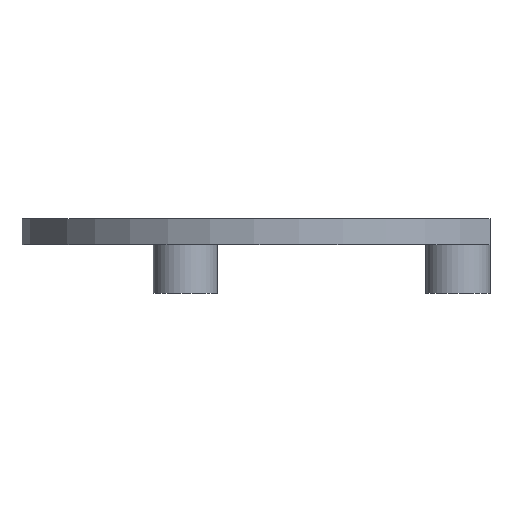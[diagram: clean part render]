
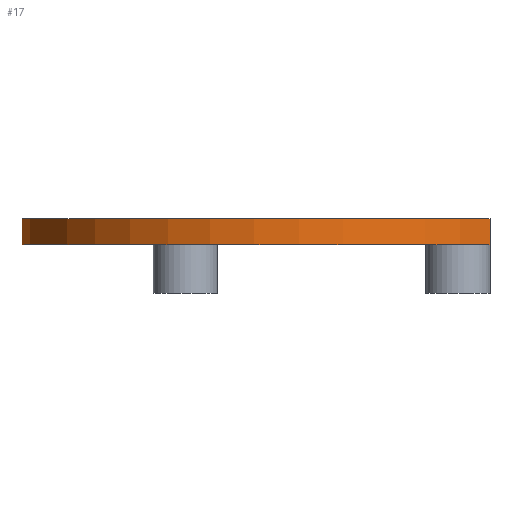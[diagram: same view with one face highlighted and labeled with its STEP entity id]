
A CAD part, left-side view. The second image highlights one B-rep face of the part: STEP entity #17.
In plain terms, the highlighted cylindrical face has radius 65 mm (diameter 130 mm), a partial arc.
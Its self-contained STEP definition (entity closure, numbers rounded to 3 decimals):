
#17 = ADVANCED_FACE('',(#18),#33,.T.);
#18 = FACE_BOUND('',#19,.F.);
#19 = EDGE_LOOP('',(#20,#56,#82,#115));
#20 = ORIENTED_EDGE('',*,*,#21,.F.);
#21 = EDGE_CURVE('',#22,#24,#26,.T.);
#22 = VERTEX_POINT('',#23);
#23 = CARTESIAN_POINT('',(39.,-52.,0.));
#24 = VERTEX_POINT('',#25);
#25 = CARTESIAN_POINT('',(-39.,-52.,0.));
#26 = SURFACE_CURVE('',#27,(#32,#44),.PCURVE_S1.);
#27 = CIRCLE('',#28,65.);
#28 = AXIS2_PLACEMENT_3D('',#29,#30,#31);
#29 = CARTESIAN_POINT('',(0.,0.,0.));
#30 = DIRECTION('',(0.,0.,1.));
#31 = DIRECTION('',(0.6,-0.8,0.));
#32 = PCURVE('',#33,#38);
#33 = CYLINDRICAL_SURFACE('',#34,65.);
#34 = AXIS2_PLACEMENT_3D('',#35,#36,#37);
#35 = CARTESIAN_POINT('',(0.,0.,0.));
#36 = DIRECTION('',(-0.,-0.,-1.));
#37 = DIRECTION('',(1.,0.,0.));
#38 = DEFINITIONAL_REPRESENTATION('',(#39),#43);
#39 = LINE('',#40,#41);
#40 = CARTESIAN_POINT('',(-5.356,0.));
#41 = VECTOR('',#42,1.);
#42 = DIRECTION('',(-1.,0.));
#43 = ( GEOMETRIC_REPRESENTATION_CONTEXT(2) 
PARAMETRIC_REPRESENTATION_CONTEXT() REPRESENTATION_CONTEXT('2D SPACE',''
  ) );
#44 = PCURVE('',#45,#50);
#45 = PLANE('',#46);
#46 = AXIS2_PLACEMENT_3D('',#47,#48,#49);
#47 = CARTESIAN_POINT('',(0.,0.,0.));
#48 = DIRECTION('',(0.,0.,1.));
#49 = DIRECTION('',(1.,0.,-0.));
#50 = DEFINITIONAL_REPRESENTATION('',(#51),#55);
#51 = CIRCLE('',#52,65.);
#52 = AXIS2_PLACEMENT_2D('',#53,#54);
#53 = CARTESIAN_POINT('',(0.,0.));
#54 = DIRECTION('',(0.6,-0.8));
#55 = ( GEOMETRIC_REPRESENTATION_CONTEXT(2) 
PARAMETRIC_REPRESENTATION_CONTEXT() REPRESENTATION_CONTEXT('2D SPACE',''
  ) );
#56 = ORIENTED_EDGE('',*,*,#57,.F.);
#57 = EDGE_CURVE('',#58,#22,#60,.T.);
#58 = VERTEX_POINT('',#59);
#59 = CARTESIAN_POINT('',(39.,-52.,6.5));
#60 = SURFACE_CURVE('',#61,(#65,#71),.PCURVE_S1.);
#61 = LINE('',#62,#63);
#62 = CARTESIAN_POINT('',(39.,-52.,0.));
#63 = VECTOR('',#64,1.);
#64 = DIRECTION('',(-0.,-0.,-1.));
#65 = PCURVE('',#33,#66);
#66 = DEFINITIONAL_REPRESENTATION('',(#67),#70);
#67 = B_SPLINE_CURVE_WITH_KNOTS('',1,(#68,#69),.UNSPECIFIED.,.F.,.F.,(2,
    2),(-6.5,0.),.PIECEWISE_BEZIER_KNOTS.);
#68 = CARTESIAN_POINT('',(-5.356,-6.5));
#69 = CARTESIAN_POINT('',(-5.356,0.));
#70 = ( GEOMETRIC_REPRESENTATION_CONTEXT(2) 
PARAMETRIC_REPRESENTATION_CONTEXT() REPRESENTATION_CONTEXT('2D SPACE',''
  ) );
#71 = PCURVE('',#72,#77);
#72 = PLANE('',#73);
#73 = AXIS2_PLACEMENT_3D('',#74,#75,#76);
#74 = CARTESIAN_POINT('',(-200.,-52.,-280.));
#75 = DIRECTION('',(0.,1.,0.));
#76 = DIRECTION('',(0.,0.,1.));
#77 = DEFINITIONAL_REPRESENTATION('',(#78),#81);
#78 = B_SPLINE_CURVE_WITH_KNOTS('',1,(#79,#80),.UNSPECIFIED.,.F.,.F.,(2,
    2),(-6.5,0.),.PIECEWISE_BEZIER_KNOTS.);
#79 = CARTESIAN_POINT('',(286.5,239.));
#80 = CARTESIAN_POINT('',(280.,239.));
#81 = ( GEOMETRIC_REPRESENTATION_CONTEXT(2) 
PARAMETRIC_REPRESENTATION_CONTEXT() REPRESENTATION_CONTEXT('2D SPACE',''
  ) );
#82 = ORIENTED_EDGE('',*,*,#83,.F.);
#83 = EDGE_CURVE('',#84,#58,#86,.T.);
#84 = VERTEX_POINT('',#85);
#85 = CARTESIAN_POINT('',(-39.,-52.,6.5));
#86 = SURFACE_CURVE('',#87,(#92,#99),.PCURVE_S1.);
#87 = CIRCLE('',#88,65.);
#88 = AXIS2_PLACEMENT_3D('',#89,#90,#91);
#89 = CARTESIAN_POINT('',(0.,0.,6.5));
#90 = DIRECTION('',(-0.,0.,-1.));
#91 = DIRECTION('',(-0.6,-0.8,0.));
#92 = PCURVE('',#33,#93);
#93 = DEFINITIONAL_REPRESENTATION('',(#94),#98);
#94 = LINE('',#95,#96);
#95 = CARTESIAN_POINT('',(-10.352,-6.5));
#96 = VECTOR('',#97,1.);
#97 = DIRECTION('',(1.,-0.));
#98 = ( GEOMETRIC_REPRESENTATION_CONTEXT(2) 
PARAMETRIC_REPRESENTATION_CONTEXT() REPRESENTATION_CONTEXT('2D SPACE',''
  ) );
#99 = PCURVE('',#100,#105);
#100 = PLANE('',#101);
#101 = AXIS2_PLACEMENT_3D('',#102,#103,#104);
#102 = CARTESIAN_POINT('',(0.,0.,6.5));
#103 = DIRECTION('',(0.,0.,1.));
#104 = DIRECTION('',(1.,0.,-0.));
#105 = DEFINITIONAL_REPRESENTATION('',(#106),#114);
#106 = ( BOUNDED_CURVE() B_SPLINE_CURVE(2,(#107,#108,#109,#110,#111,#112
,#113),.UNSPECIFIED.,.T.,.F.) B_SPLINE_CURVE_WITH_KNOTS((1,2,2,2,2,1),(
    -2.094,0.,2.094,4.189,6.283,
8.378),.UNSPECIFIED.) CURVE() GEOMETRIC_REPRESENTATION_ITEM() 
RATIONAL_B_SPLINE_CURVE((1.,0.5,1.,0.5,1.,0.5,1.)) REPRESENTATION_ITEM(
  '') );
#107 = CARTESIAN_POINT('',(-39.,-52.));
#108 = CARTESIAN_POINT('',(-129.067,15.55));
#109 = CARTESIAN_POINT('',(-25.533,59.775));
#110 = CARTESIAN_POINT('',(78.,104.));
#111 = CARTESIAN_POINT('',(64.533,-7.775));
#112 = CARTESIAN_POINT('',(51.067,-119.55));
#113 = CARTESIAN_POINT('',(-39.,-52.));
#114 = ( GEOMETRIC_REPRESENTATION_CONTEXT(2) 
PARAMETRIC_REPRESENTATION_CONTEXT() REPRESENTATION_CONTEXT('2D SPACE',''
  ) );
#115 = ORIENTED_EDGE('',*,*,#116,.T.);
#116 = EDGE_CURVE('',#84,#24,#117,.T.);
#117 = SURFACE_CURVE('',#118,(#122,#128),.PCURVE_S1.);
#118 = LINE('',#119,#120);
#119 = CARTESIAN_POINT('',(-39.,-52.,0.));
#120 = VECTOR('',#121,1.);
#121 = DIRECTION('',(-0.,-0.,-1.));
#122 = PCURVE('',#33,#123);
#123 = DEFINITIONAL_REPRESENTATION('',(#124),#127);
#124 = B_SPLINE_CURVE_WITH_KNOTS('',1,(#125,#126),.UNSPECIFIED.,.F.,.F.,
  (2,2),(-6.5,0.),.PIECEWISE_BEZIER_KNOTS.);
#125 = CARTESIAN_POINT('',(-10.352,-6.5));
#126 = CARTESIAN_POINT('',(-10.352,0.));
#127 = ( GEOMETRIC_REPRESENTATION_CONTEXT(2) 
PARAMETRIC_REPRESENTATION_CONTEXT() REPRESENTATION_CONTEXT('2D SPACE',''
  ) );
#128 = PCURVE('',#72,#129);
#129 = DEFINITIONAL_REPRESENTATION('',(#130),#133);
#130 = B_SPLINE_CURVE_WITH_KNOTS('',1,(#131,#132),.UNSPECIFIED.,.F.,.F.,
  (2,2),(-6.5,0.),.PIECEWISE_BEZIER_KNOTS.);
#131 = CARTESIAN_POINT('',(286.5,161.));
#132 = CARTESIAN_POINT('',(280.,161.));
#133 = ( GEOMETRIC_REPRESENTATION_CONTEXT(2) 
PARAMETRIC_REPRESENTATION_CONTEXT() REPRESENTATION_CONTEXT('2D SPACE',''
  ) );
